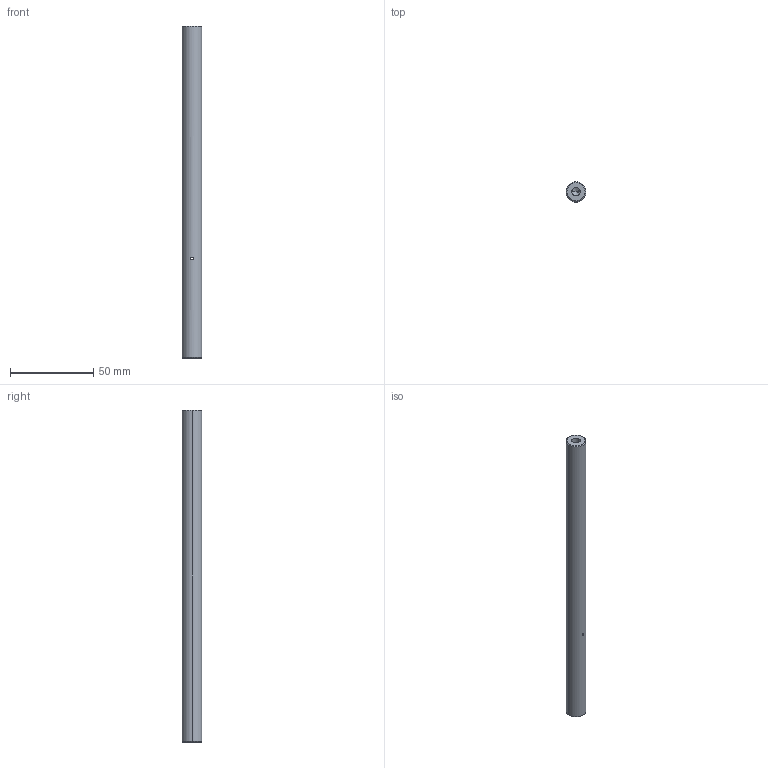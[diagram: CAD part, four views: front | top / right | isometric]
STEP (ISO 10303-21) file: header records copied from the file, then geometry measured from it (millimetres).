
FILE_DESCRIPTION (( 'STEP AP203' ), '1' );
FILE_NAME ('PHSP12-6A.step', '2019-05-09T09:08:19', ( '' ), ( '' ), 'SwSTEP 2.0', 'SolidWorks 2016', '' );
FILE_SCHEMA (( 'CONFIG_CONTROL_DESIGN' ));
Length unit declared in the file: millimetre
Products named in the file (1): PHSP12-6A
Bounding box: 12 x 12 x 200 mm (x, y, z)
Volume: 22019.7 mm3; surface area: 8242.4 mm2
Topology: 1 solids, 1 shells, 18 faces, 40 edges, 22 vertices
Faces by surface type: cylinder 8, cone 8, plane 2
Entity records: 597 total; most frequent: CARTESIAN_POINT 133, DIRECTION 86, ORIENTED_EDGE 72, EDGE_CURVE 36, AXIS2_PLACEMENT_3D 35, VERTEX_POINT 22, EDGE_LOOP 22, FACE_OUTER_BOUND 18
